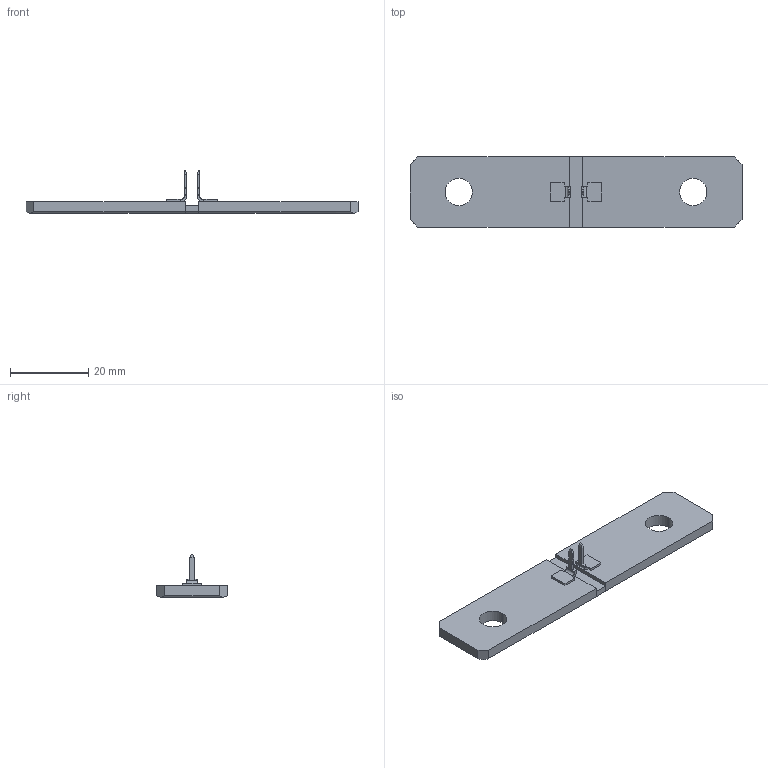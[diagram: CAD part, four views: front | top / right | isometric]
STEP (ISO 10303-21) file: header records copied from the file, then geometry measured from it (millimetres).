
FILE_DESCRIPTION (( 'STEP AP203' ), '1' );
FILE_NAME ('WSBS 8518-20 50 MICRO..OHM.STEP', '2016-12-29T17:15:34', ( '' ), ( '' ), 'SwSTEP 2.0', 'SolidWorks 2016', '' );
FILE_SCHEMA (( 'CONFIG_CONTROL_DESIGN' ));
Length unit declared in the file: millimetre
Products named in the file (6): PIN-1001 FOR WSBS 100 E; WSBS 8518 50 焜; WSBS 8518-20 50 MICRO..OHM; WSBS 8518 50 焜_100 microohm
Assembly tree (3 placements, depth 2):
  PIN-1001 FOR WSBS 100 E
  PIN-1001 FOR WSBS 100 E
  WSBS 8518 50 焜
  WSBS 8518-20 50 MICRO..OHM
    WSBS 8518 50 焜_100 microohm
    PIN-1001 FOR WSBS 100 E  x2
Bounding box: 84.99 x 17.98 x 10.87 mm (x, y, z)
Volume: 4274.1 mm3; surface area: 3759.6 mm2
Topology: 3 solids, 3 shells, 100 faces, 276 edges, 184 vertices
Faces by surface type: plane 64, cylinder 36
Entity records: 2655 total; most frequent: CARTESIAN_POINT 409, ORIENTED_EDGE 360, DIRECTION 354, EDGE_CURVE 180, LINE 128, VECTOR 128, VERTEX_POINT 120, AXIS2_PLACEMENT_3D 113
